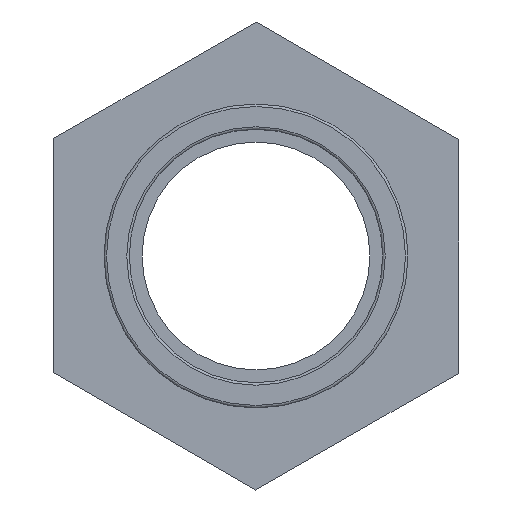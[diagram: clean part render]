
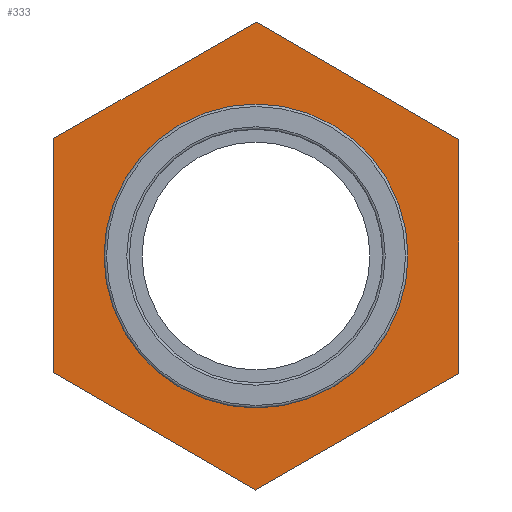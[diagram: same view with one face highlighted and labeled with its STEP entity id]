
A CAD part, left-side view. The second image highlights one B-rep face of the part: STEP entity #333.
In plain terms, the highlighted planar face has unit normal (-1, 0, 0).
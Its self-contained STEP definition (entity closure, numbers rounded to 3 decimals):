
#17=LINE('',#517,#35);
#21=LINE('',#525,#39);
#24=LINE('',#531,#42);
#27=LINE('',#538,#45);
#31=LINE('',#545,#49);
#33=LINE('',#548,#51);
#35=VECTOR('',#425,23.094);
#39=VECTOR('',#431,23.094);
#42=VECTOR('',#436,23.094);
#45=VECTOR('',#441,23.094);
#49=VECTOR('',#447,23.094);
#51=VECTOR('',#451,23.094);
#70=PLANE('',#376);
#88=FACE_BOUND('',#154,.T.);
#112=FACE_OUTER_BOUND('',#153,.T.);
#153=EDGE_LOOP('',(#299,#300,#301,#302,#303,#304));
#154=EDGE_LOOP('',(#305));
#166=CIRCLE('',#357,15.);
#183=VERTEX_POINT('',#512);
#184=VERTEX_POINT('',#515);
#185=VERTEX_POINT('',#516);
#188=VERTEX_POINT('',#524);
#190=VERTEX_POINT('',#530);
#192=VERTEX_POINT('',#536);
#193=VERTEX_POINT('',#537);
#212=EDGE_CURVE('',#183,#183,#166,.T.);
#213=EDGE_CURVE('',#184,#185,#17,.T.);
#217=EDGE_CURVE('',#185,#188,#21,.T.);
#220=EDGE_CURVE('',#188,#190,#24,.T.);
#223=EDGE_CURVE('',#192,#193,#27,.T.);
#227=EDGE_CURVE('',#193,#184,#31,.T.);
#229=EDGE_CURVE('',#190,#192,#33,.T.);
#299=ORIENTED_EDGE('',*,*,#227,.F.);
#300=ORIENTED_EDGE('',*,*,#223,.F.);
#301=ORIENTED_EDGE('',*,*,#229,.F.);
#302=ORIENTED_EDGE('',*,*,#220,.F.);
#303=ORIENTED_EDGE('',*,*,#217,.F.);
#304=ORIENTED_EDGE('',*,*,#213,.F.);
#305=ORIENTED_EDGE('',*,*,#212,.F.);
#333=ADVANCED_FACE('',(#112,#88),#70,.T.);
#357=AXIS2_PLACEMENT_3D('',#513,#421,#422);
#376=AXIS2_PLACEMENT_3D('',#567,#477,#478);
#421=DIRECTION('center_axis',(-1.,0.,0.));
#422=DIRECTION('ref_axis',(0.,0.,1.));
#425=DIRECTION('',(0.,0.003,-1.));
#431=DIRECTION('',(0.,0.867,-0.498));
#436=DIRECTION('',(0.,0.865,0.502));
#441=DIRECTION('',(0.,-0.867,0.498));
#447=DIRECTION('',(0.,-0.865,-0.502));
#451=DIRECTION('',(0.,-0.003,1.));
#477=DIRECTION('center_axis',(-1.,0.,0.));
#478=DIRECTION('ref_axis',(0.,0.,1.));
#512=CARTESIAN_POINT('',(-4.6,-15.,0.));
#513=CARTESIAN_POINT('Origin',(-4.6,0.,0.));
#515=CARTESIAN_POINT('',(-4.6,-20.032,11.491));
#516=CARTESIAN_POINT('',(-4.6,-19.968,-11.603));
#517=CARTESIAN_POINT('',(-4.6,-19.984,-5.829));
#524=CARTESIAN_POINT('',(-4.6,0.064,-23.094));
#525=CARTESIAN_POINT('',(-4.6,-4.944,-20.221));
#530=CARTESIAN_POINT('',(-4.6,20.032,-11.491));
#531=CARTESIAN_POINT('',(-4.6,15.04,-14.392));
#536=CARTESIAN_POINT('',(-4.6,19.968,11.603));
#537=CARTESIAN_POINT('',(-4.6,-0.064,23.094));
#538=CARTESIAN_POINT('',(-4.6,4.944,20.221));
#545=CARTESIAN_POINT('',(-4.6,-15.04,14.392));
#548=CARTESIAN_POINT('',(-4.6,20.,0.056));
#567=CARTESIAN_POINT('Origin',(-4.6,-15.,0.));
